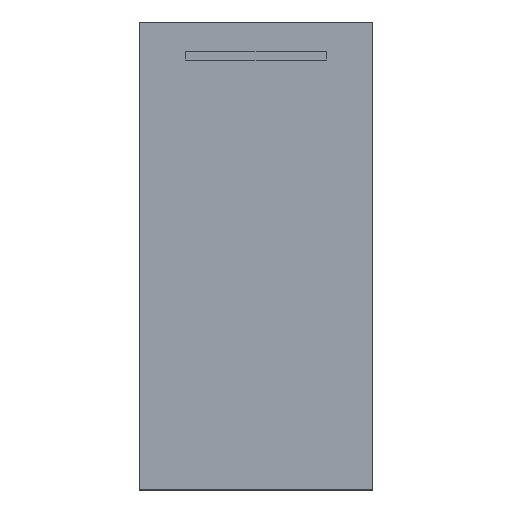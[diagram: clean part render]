
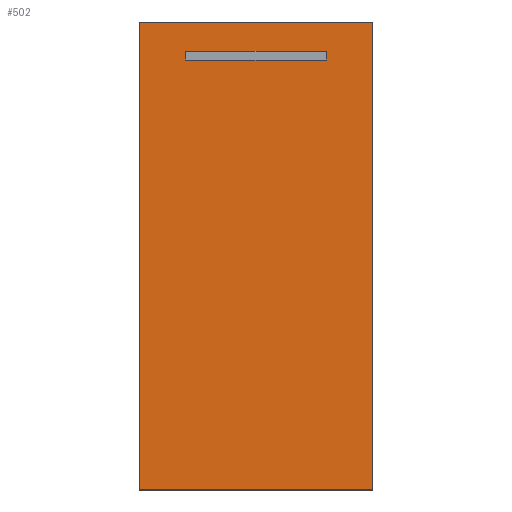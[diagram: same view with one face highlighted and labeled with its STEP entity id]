
A CAD part, top view. The second image highlights one B-rep face of the part: STEP entity #502.
In plain terms, the highlighted planar face has unit normal (0, 0, 1).
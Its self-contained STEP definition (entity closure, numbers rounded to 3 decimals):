
#18 = CARTESIAN_POINT ( 'NONE',  ( 0., -399.5, 4. ) ) ;
#48 = CARTESIAN_POINT ( 'NONE',  ( -120., 335., 4. ) ) ;
#49 = FACE_BOUND ( 'NONE', #738, .T. ) ;
#87 = LINE ( 'NONE', #1270, #614 ) ;
#102 = ORIENTED_EDGE ( 'NONE', *, *, #572, .F. ) ;
#109 = LINE ( 'NONE', #964, #441 ) ;
#110 = DIRECTION ( 'NONE',  ( -1., 0., 0. ) ) ;
#159 = DIRECTION ( 'NONE',  ( 1., 0., 0. ) ) ;
#201 = CARTESIAN_POINT ( 'NONE',  ( 0., 0., 4. ) ) ;
#216 = CARTESIAN_POINT ( 'NONE',  ( -120., 335., 4. ) ) ;
#226 = VECTOR ( 'NONE', #831, 1000. ) ;
#287 = ORIENTED_EDGE ( 'NONE', *, *, #1452, .T. ) ;
#299 = EDGE_CURVE ( 'NONE', #542, #1127, #1691, .T. ) ;
#319 = EDGE_CURVE ( 'NONE', #1238, #1787, #1758, .T. ) ;
#355 = EDGE_CURVE ( 'NONE', #546, #1582, #444, .T. ) ;
#381 = CARTESIAN_POINT ( 'NONE',  ( -120., 350., 4. ) ) ;
#419 = CARTESIAN_POINT ( 'NONE',  ( 120., 335., 4. ) ) ;
#425 = ORIENTED_EDGE ( 'NONE', *, *, #355, .T. ) ;
#441 = VECTOR ( 'NONE', #1841, 1000. ) ;
#444 = LINE ( 'NONE', #1169, #1039 ) ;
#465 = DIRECTION ( 'NONE',  ( 0., 1., 0. ) ) ;
#502 = ADVANCED_FACE ( 'NONE', ( #49, #560 ), #1529, .F. ) ;
#542 = VERTEX_POINT ( 'NONE', #216 ) ;
#546 = VERTEX_POINT ( 'NONE', #638 ) ;
#560 = FACE_OUTER_BOUND ( 'NONE', #1855, .T. ) ;
#572 = EDGE_CURVE ( 'NONE', #1854, #542, #1876, .T. ) ;
#614 = VECTOR ( 'NONE', #110, 1000. ) ;
#631 = DIRECTION ( 'NONE',  ( 0., 0., -1. ) ) ;
#638 = CARTESIAN_POINT ( 'NONE',  ( 199.5, -399.5, 4. ) ) ;
#677 = EDGE_CURVE ( 'NONE', #1127, #1692, #1079, .T. ) ;
#738 = EDGE_LOOP ( 'NONE', ( #973, #102, #1772, #1407 ) ) ;
#821 = CARTESIAN_POINT ( 'NONE',  ( -199.5, -399.5, 4. ) ) ;
#831 = DIRECTION ( 'NONE',  ( 0., 1., 0. ) ) ;
#893 = CARTESIAN_POINT ( 'NONE',  ( 199.5, 399.5, 4. ) ) ;
#946 = ORIENTED_EDGE ( 'NONE', *, *, #319, .T. ) ;
#960 = LINE ( 'NONE', #18, #1524 ) ;
#964 = CARTESIAN_POINT ( 'NONE',  ( -120., 350., 4. ) ) ;
#973 = ORIENTED_EDGE ( 'NONE', *, *, #299, .F. ) ;
#1018 = VECTOR ( 'NONE', #1498, 1000. ) ;
#1039 = VECTOR ( 'NONE', #465, 1000. ) ;
#1071 = CARTESIAN_POINT ( 'NONE',  ( 120., 350., 4. ) ) ;
#1072 = CARTESIAN_POINT ( 'NONE',  ( -199.5, 399.5, 4. ) ) ;
#1079 = LINE ( 'NONE', #1725, #226 ) ;
#1127 = VERTEX_POINT ( 'NONE', #419 ) ;
#1169 = CARTESIAN_POINT ( 'NONE',  ( 199.5, 0., 4. ) ) ;
#1238 = VERTEX_POINT ( 'NONE', #1072 ) ;
#1262 = DIRECTION ( 'NONE',  ( 0., -1., 0. ) ) ;
#1270 = CARTESIAN_POINT ( 'NONE',  ( 0., 399.5, 4. ) ) ;
#1311 = EDGE_CURVE ( 'NONE', #1692, #1854, #109, .T. ) ;
#1390 = CARTESIAN_POINT ( 'NONE',  ( -120., 350., 4. ) ) ;
#1407 = ORIENTED_EDGE ( 'NONE', *, *, #677, .F. ) ;
#1439 = EDGE_CURVE ( 'NONE', #1582, #1238, #87, .T. ) ;
#1452 = EDGE_CURVE ( 'NONE', #1787, #546, #960, .T. ) ;
#1498 = DIRECTION ( 'NONE',  ( 1., 0., 0. ) ) ;
#1502 = DIRECTION ( 'NONE',  ( 0., -1., 0. ) ) ;
#1524 = VECTOR ( 'NONE', #159, 1000. ) ;
#1529 = PLANE ( 'NONE',  #1744 ) ;
#1530 = VECTOR ( 'NONE', #1262, 1000. ) ;
#1545 = DIRECTION ( 'NONE',  ( -1., 0., 0. ) ) ;
#1582 = VERTEX_POINT ( 'NONE', #893 ) ;
#1638 = ORIENTED_EDGE ( 'NONE', *, *, #1439, .T. ) ;
#1667 = VECTOR ( 'NONE', #1502, 1000. ) ;
#1691 = LINE ( 'NONE', #48, #1018 ) ;
#1692 = VERTEX_POINT ( 'NONE', #1071 ) ;
#1725 = CARTESIAN_POINT ( 'NONE',  ( 120., 350., 4. ) ) ;
#1744 = AXIS2_PLACEMENT_3D ( 'NONE', #201, #631, #1545 ) ;
#1758 = LINE ( 'NONE', #1786, #1667 ) ;
#1772 = ORIENTED_EDGE ( 'NONE', *, *, #1311, .F. ) ;
#1786 = CARTESIAN_POINT ( 'NONE',  ( -199.5, 0., 4. ) ) ;
#1787 = VERTEX_POINT ( 'NONE', #821 ) ;
#1841 = DIRECTION ( 'NONE',  ( -1., 0., 0. ) ) ;
#1854 = VERTEX_POINT ( 'NONE', #381 ) ;
#1855 = EDGE_LOOP ( 'NONE', ( #425, #1638, #946, #287 ) ) ;
#1876 = LINE ( 'NONE', #1390, #1530 ) ;
